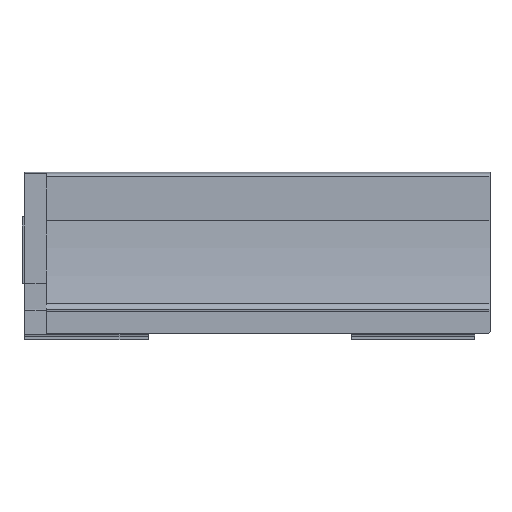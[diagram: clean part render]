
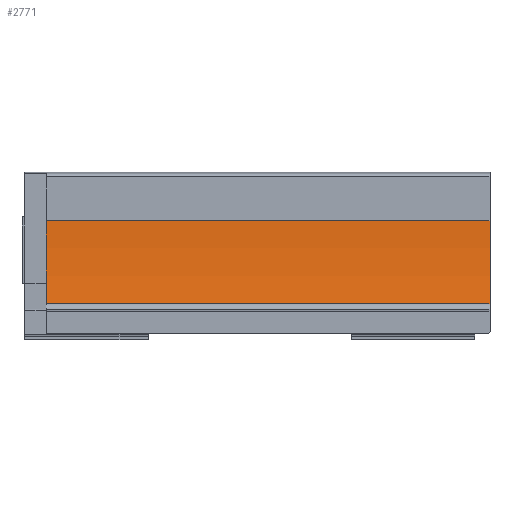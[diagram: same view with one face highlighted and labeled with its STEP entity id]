
A CAD part, left-side view. The second image highlights one B-rep face of the part: STEP entity #2771.
In plain terms, the highlighted cylindrical face has radius 350 mm (diameter 700 mm), a partial arc.
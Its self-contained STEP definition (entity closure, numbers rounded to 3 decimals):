
#62 = EDGE_LOOP ( 'NONE', ( #2876, #2896, #2921, #2863 ) ) ;
#511 = FACE_OUTER_BOUND ( 'NONE', #62, .T. ) ;
#513 = CYLINDRICAL_SURFACE ( 'NONE', #3340, 350. ) ;
#723 = CIRCLE ( 'NONE', #3459, 350. ) ;
#848 = CIRCLE ( 'NONE', #3326, 350. ) ;
#1012 = LINE ( 'NONE', #1962, #1022 ) ;
#1022 = VECTOR ( 'NONE', #1979, 1000. ) ;
#1069 = LINE ( 'NONE', #2031, #1070 ) ;
#1070 = VECTOR ( 'NONE', #2032, 1000. ) ;
#1223 = DIRECTION ( 'NONE',  ( 1., 0., 0. ) ) ;
#1224 = DIRECTION ( 'NONE',  ( 0., -1., 0. ) ) ;
#1225 = CARTESIAN_POINT ( 'NONE',  ( -369.736, 340., 58.528 ) ) ;
#1618 = CARTESIAN_POINT ( 'NONE',  ( -369.736, 323.8, 58.528 ) ) ;
#1619 = DIRECTION ( 'NONE',  ( 0., -1., 0. ) ) ;
#1620 = DIRECTION ( 'NONE',  ( -1., 0., 0. ) ) ;
#1768 = CARTESIAN_POINT ( 'NONE',  ( -369.736, 0., 58.528 ) ) ;
#1769 = DIRECTION ( 'NONE',  ( 0., -1., 0. ) ) ;
#1770 = DIRECTION ( 'NONE',  ( -1., 0., 0. ) ) ;
#1962 = CARTESIAN_POINT ( 'NONE',  ( -19.93, 340., 46.864 ) ) ;
#1979 = DIRECTION ( 'NONE',  ( 0., -1., 0. ) ) ;
#2031 = CARTESIAN_POINT ( 'NONE',  ( -27.279, 340., -13.745 ) ) ;
#2032 = DIRECTION ( 'NONE',  ( 0., -1., 0. ) ) ;
#2251 = VERTEX_POINT ( 'NONE', #2451 ) ;
#2254 = VERTEX_POINT ( 'NONE', #2454 ) ;
#2316 = VERTEX_POINT ( 'NONE', #2516 ) ;
#2317 = VERTEX_POINT ( 'NONE', #2517 ) ;
#2451 = CARTESIAN_POINT ( 'NONE',  ( -19.93, 0., 46.864 ) ) ;
#2454 = CARTESIAN_POINT ( 'NONE',  ( -27.279, 0., -13.745 ) ) ;
#2516 = CARTESIAN_POINT ( 'NONE',  ( -19.93, 323.8, 46.864 ) ) ;
#2517 = CARTESIAN_POINT ( 'NONE',  ( -27.279, 323.8, -13.745 ) ) ;
#2771 = ADVANCED_FACE ( 'NONE', ( #511 ), #513, .F. ) ;
#2863 = ORIENTED_EDGE ( 'NONE', *, *, #3420, .F. ) ;
#2876 = ORIENTED_EDGE ( 'NONE', *, *, #3152, .F. ) ;
#2896 = ORIENTED_EDGE ( 'NONE', *, *, #3463, .T. ) ;
#2921 = ORIENTED_EDGE ( 'NONE', *, *, #3247, .T. ) ;
#3152 = EDGE_CURVE ( 'NONE', #2317, #2316, #723, .T. ) ;
#3247 = EDGE_CURVE ( 'NONE', #2254, #2251, #848, .T. ) ;
#3326 = AXIS2_PLACEMENT_3D ( 'NONE', #1768, #1769, #1770 ) ;
#3340 = AXIS2_PLACEMENT_3D ( 'NONE', #1225, #1224, #1223 ) ;
#3420 = EDGE_CURVE ( 'NONE', #2316, #2251, #1012, .T. ) ;
#3459 = AXIS2_PLACEMENT_3D ( 'NONE', #1618, #1619, #1620 ) ;
#3463 = EDGE_CURVE ( 'NONE', #2317, #2254, #1069, .T. ) ;
